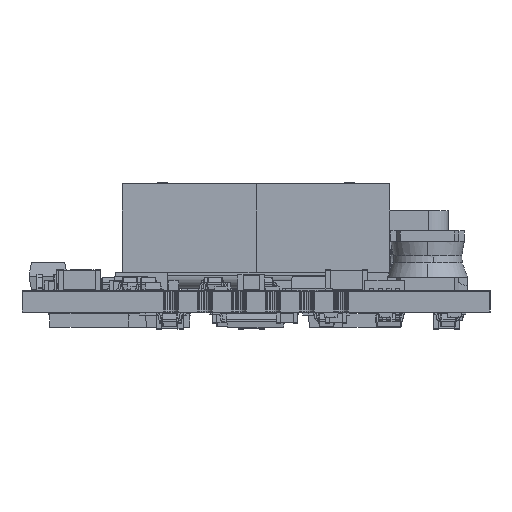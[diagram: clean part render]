
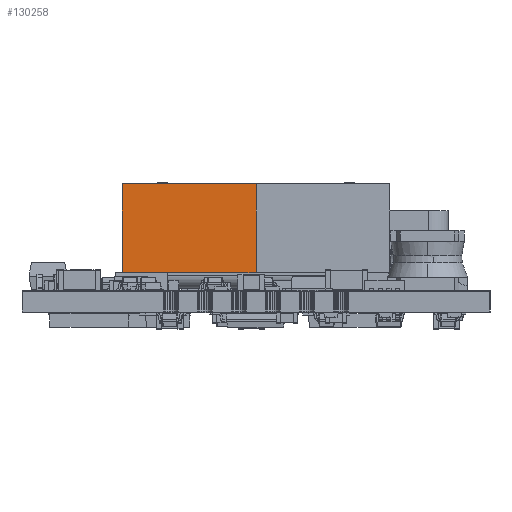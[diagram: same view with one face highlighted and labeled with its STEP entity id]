
A CAD part, left-side view. The second image highlights one B-rep face of the part: STEP entity #130258.
In plain terms, the highlighted face is a extrusion surface.
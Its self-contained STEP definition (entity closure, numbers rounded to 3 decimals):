
#130010 = VERTEX_POINT('',#130011);
#130011 = CARTESIAN_POINT('',(25.966,-6.365,
    1.38));
#130094 = VERTEX_POINT('',#130095);
#130095 = CARTESIAN_POINT('',(25.966,3.635,
    8.03));
#130101 = EDGE_CURVE('',#130094,#130102,#130104,.T.);
#130102 = VERTEX_POINT('',#130103);
#130103 = CARTESIAN_POINT('',(25.966,-6.365,
    8.03));
#130104 = LINE('',#130105,#130106);
#130105 = CARTESIAN_POINT('',(25.966,3.635,
    8.03));
#130106 = VECTOR('',#130107,1.);
#130107 = DIRECTION('',(0.,-1.,0.));
#130239 = VERTEX_POINT('',#130240);
#130240 = CARTESIAN_POINT('',(25.966,3.635,
    1.38));
#130246 = EDGE_CURVE('',#130239,#130094,#130247,.T.);
#130247 = LINE('',#130248,#130249);
#130248 = CARTESIAN_POINT('',(25.966,3.635,
    1.38));
#130249 = VECTOR('',#130250,1.);
#130250 = DIRECTION('',(0.,0.,1.));
#130258 = ADVANCED_FACE('',(#130259),#130275,.F.);
#130259 = FACE_BOUND('',#130260,.F.);
#130260 = EDGE_LOOP('',(#130261,#130267,#130273,#130274));
#130261 = ORIENTED_EDGE('',*,*,#130262,.T.);
#130262 = EDGE_CURVE('',#130239,#130010,#130263,.T.);
#130263 = LINE('',#130264,#130265);
#130264 = CARTESIAN_POINT('',(25.966,3.635,
    1.38));
#130265 = VECTOR('',#130266,1.);
#130266 = DIRECTION('',(0.,-1.,0.));
#130267 = ORIENTED_EDGE('',*,*,#130268,.T.);
#130268 = EDGE_CURVE('',#130010,#130102,#130269,.T.);
#130269 = LINE('',#130270,#130271);
#130270 = CARTESIAN_POINT('',(25.966,-6.365,
    1.38));
#130271 = VECTOR('',#130272,1.);
#130272 = DIRECTION('',(0.,0.,1.));
#130273 = ORIENTED_EDGE('',*,*,#130101,.F.);
#130274 = ORIENTED_EDGE('',*,*,#130246,.F.);
#130275 = SURFACE_OF_LINEAR_EXTRUSION('',#130276,#130280);
#130276 = LINE('',#130277,#130278);
#130277 = CARTESIAN_POINT('',(25.966,-6.365,
    1.38));
#130278 = VECTOR('',#130279,1.);
#130279 = DIRECTION('',(0.,0.,1.));
#130280 = VECTOR('',#130281,1.);
#130281 = DIRECTION('',(0.,1.,0.));
